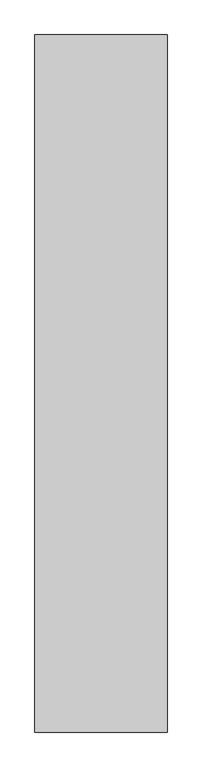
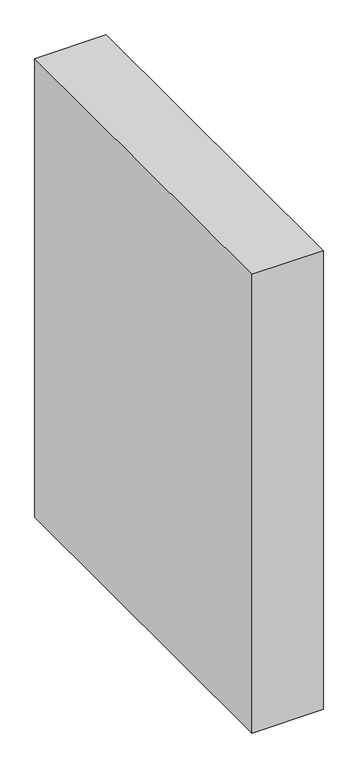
"""IFC4 building model written with IfcOpenShell, lengths in millimetres: proxy geometry."""

from ifc_helpers import new_model, si_unit, origin, origin_with_axes, place, context, project, spatial, polyline, outline, extrude, source, transform, mapped, element, save


def generic_models_1ed91710(model_context):
    return source(origin(), model_context, "Body", "SweptSolid", [
        extrude(outline(polyline([(-104186.1304765, -27350.7903364), (-104186.1304765, -29780.7903364), (-104646.1304765, -29780.7903364), (-104646.1304765, -27350.7903364), (-104186.1304765, -27350.7903364)])), origin_with_axes(), (0.0, 0.0, 1.0), 3130.0),
    ])


if __name__ == "__main__":
    model = new_model("IFC4")
    model_context = context("Model", 3, world=origin())
    ifc_project = project(units=[si_unit("LENGTHUNIT", "METRE", prefix="MILLI")], contexts=[model_context])
    site = spatial("IfcSite", under=ifc_project)
    building = spatial("IfcBuilding", under=site)
    placement = place(None, origin())
    generic_models_shape = generic_models_1ed91710(model_context)
    element("IfcBuildingElementProxy", 1, Name="Generic Models", at=placement, inside=building, context=model_context, shape_type="MappedRepresentation", body=[
        mapped(generic_models_shape, transform((0.0, 0.0, 0.0), x_axis=(1.0, 0.0, 0.0), y_axis=(0.0, 1.0, 0.0), z_axis=(0.0, 0.0, 1.0))),
    ])
    save(model, "model.ifc")
